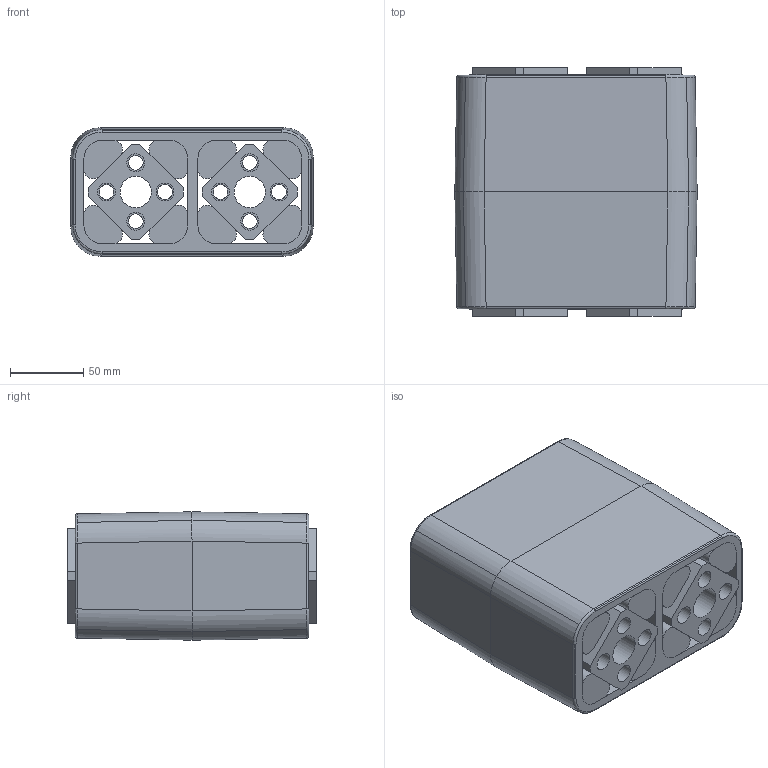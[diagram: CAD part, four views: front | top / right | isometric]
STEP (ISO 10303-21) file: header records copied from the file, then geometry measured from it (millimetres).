
FILE_DESCRIPTION((''),'2;1');
FILE_NAME('\\rostaofc\data\uw\save\daten_f\Normprogramm 3D\Gummifedertechnologie\DO-A50x160_01041019.stp','2006-10-23T09:55:09',('uw'),(''),'Autodesk Inventor 8','Autodesk Inventor 8','');
FILE_SCHEMA(('AUTOMOTIVE_DESIGN { 1 0 10303 214 1 1 1 1 }'));
Length unit declared in the file: millimetre
Products named in the file (4): ROSTA-Gummifederelement DO50x160; Gehäuse zu DO50x160; 01308539-001; 01308539-002
Assembly tree (11 placements, depth 2):
  ROSTA-Gummifederelement DO50x160
    Gehäuse zu DO50x160
    01308539-001  x2
    01308539-002  x8
Bounding box: 165.79 x 170 x 87.79 mm (x, y, z)
Volume: 1873049.8 mm3; surface area: 422570 mm2
Topology: 11 solids, 11 shells, 498 faces, 1192 edges, 764 vertices
Faces by surface type: plane 254, cylinder 144, bspline 84, cone 16
Entity records: 11771 total; most frequent: CARTESIAN_POINT 2827, DIRECTION 1916, ORIENTED_EDGE 1784, EDGE_CURVE 892, AXIS2_PLACEMENT_3D 689, VERTEX_POINT 572, VECTOR 538, LINE 538
